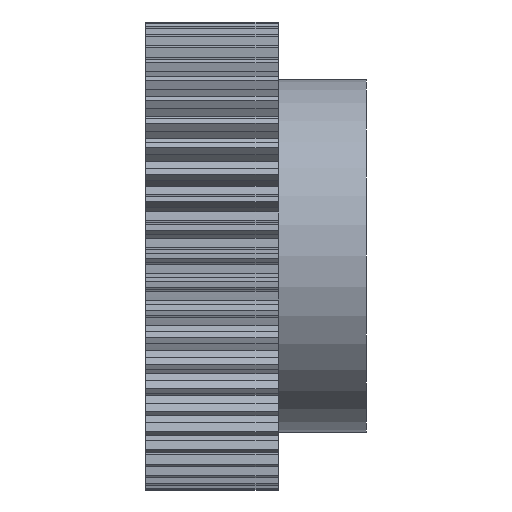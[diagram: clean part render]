
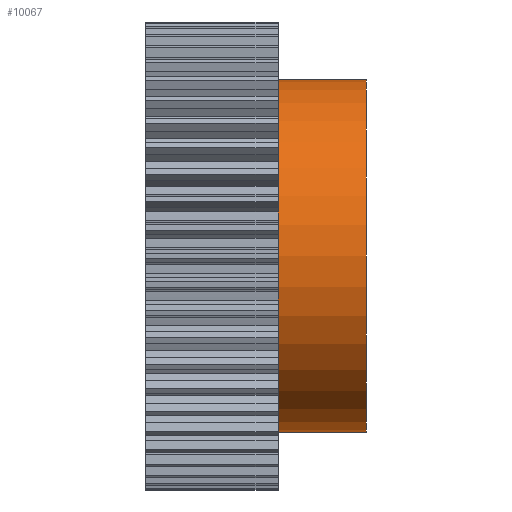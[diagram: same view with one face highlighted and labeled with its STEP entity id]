
A CAD part, front view. The second image highlights one B-rep face of the part: STEP entity #10067.
In plain terms, the highlighted cylindrical face has radius 20 mm (diameter 40 mm), a partial arc.
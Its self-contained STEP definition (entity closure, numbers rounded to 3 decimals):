
#2872 = CARTESIAN_POINT ( 'NONE',  ( 17.5, 0., -20. ) ) ;
#2890 = DIRECTION ( 'NONE',  ( -1., 0., 0. ) ) ;
#2891 = VECTOR ( 'NONE', #2890, 1000. ) ;
#2892 = CARTESIAN_POINT ( 'NONE',  ( 7.5, 0., -20. ) ) ;
#2893 = CARTESIAN_POINT ( 'NONE',  ( 7.5, 0., -20. ) ) ;
#2894 = LINE ( 'NONE', #2892, #2891 ) ;
#2897 = CARTESIAN_POINT ( 'NONE',  ( 17.5, 0., 20. ) ) ;
#2929 = DIRECTION ( 'NONE',  ( -1., 0., 0. ) ) ;
#2930 = VECTOR ( 'NONE', #2929, 1000. ) ;
#2931 = CARTESIAN_POINT ( 'NONE',  ( 7.5, 0., 20. ) ) ;
#2932 = LINE ( 'NONE', #2931, #2930 ) ;
#2940 = CARTESIAN_POINT ( 'NONE',  ( 7.5, 0., 20. ) ) ;
#5846 = DIRECTION ( 'NONE',  ( 0., 0., 1. ) ) ;
#5847 = DIRECTION ( 'NONE',  ( -1., 0., 0. ) ) ;
#5848 = CARTESIAN_POINT ( 'NONE',  ( 17.5, 0., 0. ) ) ;
#5849 = AXIS2_PLACEMENT_3D ( 'NONE', #5848, #5847, #5846 ) ;
#5850 = CIRCLE ( 'NONE', #5849, 20. ) ;
#6149 = FACE_OUTER_BOUND ( 'NONE', #10483, .T. ) ;
#6155 = CARTESIAN_POINT ( 'NONE',  ( 7.5, 0., 0. ) ) ;
#6156 = AXIS2_PLACEMENT_3D ( 'NONE', #6155, #6199, #6180 ) ;
#6180 = DIRECTION ( 'NONE',  ( 0., 0., 1. ) ) ;
#6183 = CYLINDRICAL_SURFACE ( 'NONE', #6156, 20. ) ;
#6199 = DIRECTION ( 'NONE',  ( -1., 0., 0. ) ) ;
#6398 = CIRCLE ( 'NONE', #6399, 20. ) ;
#6399 = AXIS2_PLACEMENT_3D ( 'NONE', #6457, #6453, #6452 ) ;
#6452 = DIRECTION ( 'NONE',  ( 0., 0., 1. ) ) ;
#6453 = DIRECTION ( 'NONE',  ( 1., 0., 0. ) ) ;
#6457 = CARTESIAN_POINT ( 'NONE',  ( 7.5, 0., 0. ) ) ;
#7725 = EDGE_CURVE ( 'NONE', #7726, #7736, #2894, .T. ) ;
#7726 = VERTEX_POINT ( 'NONE', #2872 ) ;
#7730 = VERTEX_POINT ( 'NONE', #2897 ) ;
#7736 = VERTEX_POINT ( 'NONE', #2893 ) ;
#7737 = VERTEX_POINT ( 'NONE', #2940 ) ;
#7741 = EDGE_CURVE ( 'NONE', #7730, #7737, #2932, .T. ) ;
#9872 = EDGE_CURVE ( 'NONE', #7726, #7730, #5850, .T. ) ;
#10041 = ORIENTED_EDGE ( 'NONE', *, *, #7741, .T. ) ;
#10048 = ORIENTED_EDGE ( 'NONE', *, *, #7725, .F. ) ;
#10065 = ORIENTED_EDGE ( 'NONE', *, *, #9872, .T. ) ;
#10067 = ADVANCED_FACE ( 'NONE', ( #6149 ), #6183, .T. ) ;
#10194 = EDGE_CURVE ( 'NONE', #7737, #7736, #6398, .T. ) ;
#10475 = ORIENTED_EDGE ( 'NONE', *, *, #10194, .T. ) ;
#10483 = EDGE_LOOP ( 'NONE', ( #10048, #10065, #10041, #10475 ) ) ;
